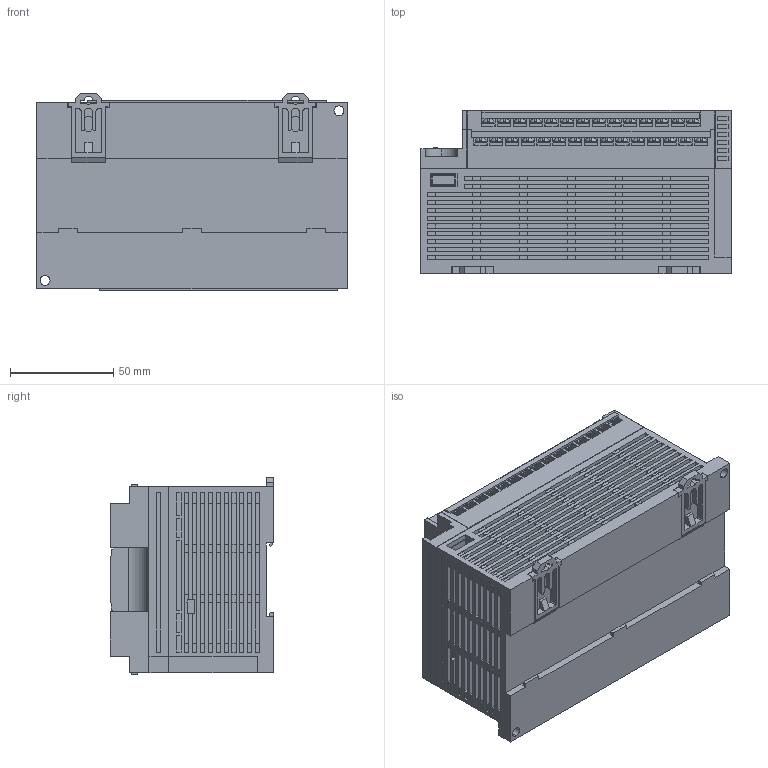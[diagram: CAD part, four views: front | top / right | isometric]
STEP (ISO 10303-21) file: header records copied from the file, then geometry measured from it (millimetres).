
FILE_DESCRIPTION (( 'STEP AP214' ), '1' );
FILE_NAME ('afpx0l40r.step', '2012-02-13T08:04:53', ( '' ), ( '' ), '', '', '' );
FILE_SCHEMA (( 'AUTOMOTIVE_DESIGN' ));
Length unit declared in the file: millimetre
Products named in the file (1): afpx0l40r
Bounding box: 150 x 79 x 95.5 mm (x, y, z)
Volume: 920092.2 mm3; surface area: 117561.8 mm2
Topology: 1 solids, 1 shells, 3633 faces, 9837 edges, 6415 vertices
Faces by surface type: plane 3232, cylinder 285, torus 116
Entity records: 157554 total; most frequent: CARTESIAN_POINT 26382, ORIENTED_EDGE 19674, DIRECTION 17451, EDGE_CURVE 9837, LINE 8099, VECTOR 8099, VERTEX_POINT 6415, AXIS2_PLACEMENT_3D 4676
